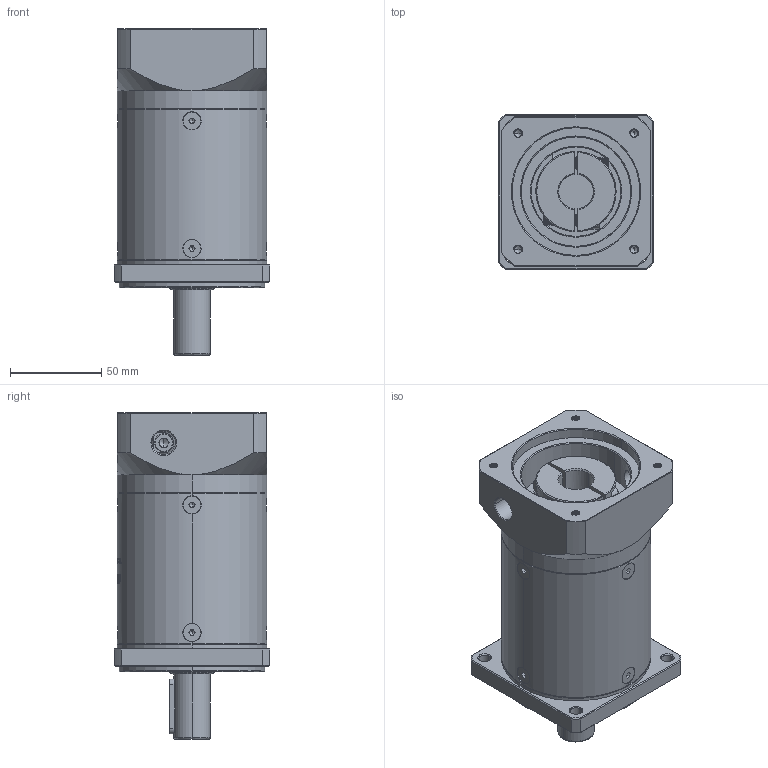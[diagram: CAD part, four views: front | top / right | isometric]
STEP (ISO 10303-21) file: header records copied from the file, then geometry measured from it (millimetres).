
FILE_DESCRIPTION (( 'STEP AP214' ), '1' );
FILE_NAME ('ZF80-D20-L3-19-70-90-M5.step', '2022-05-08T09:16:08', ( '' ), ( 'Microsoft' ), 'SwSTEP 2.0', 'SolidWorks 2016', '' );
FILE_SCHEMA (( 'AUTOMOTIVE_DESIGN' ));
Length unit declared in the file: millimetre
Products named in the file (1): ZF80-D20-L3-19-70-90-M5
Bounding box: 85 x 85 x 179 mm (x, y, z)
Volume: 738048 mm3; surface area: 96066.9 mm2
Topology: 13 solids, 13 shells, 1973 faces, 5111 edges, 3231 vertices
Faces by surface type: plane 891, cylinder 408, cone 337, bspline 320, torus 17
Entity records: 107620 total; most frequent: CARTESIAN_POINT 41348, ORIENTED_EDGE 10162, DIRECTION 8005, EDGE_CURVE 5081, VERTEX_POINT 3231, LINE 2753, VECTOR 2753, AXIS2_PLACEMENT_3D 2626
